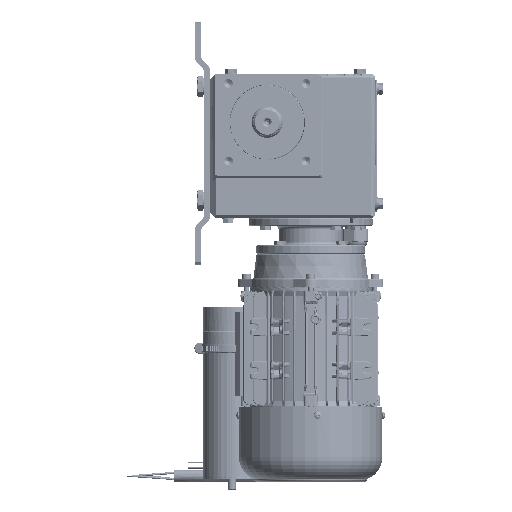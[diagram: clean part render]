
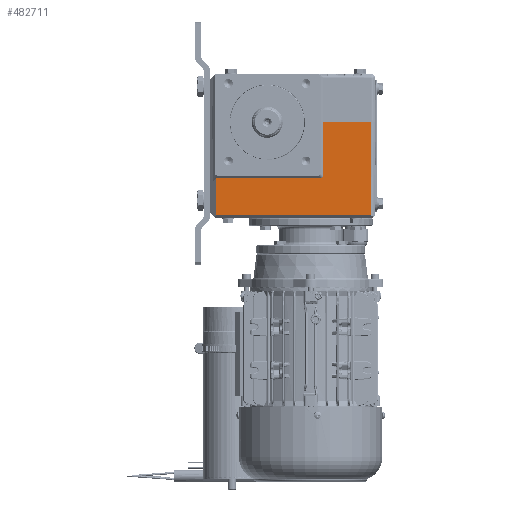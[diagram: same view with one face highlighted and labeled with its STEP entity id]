
A CAD part, left-side view. The second image highlights one B-rep face of the part: STEP entity #482711.
In plain terms, the highlighted planar face has unit normal (-1, 0, -0.009).
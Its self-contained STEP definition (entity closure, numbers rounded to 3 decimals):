
#1961 = ORIENTED_EDGE ( 'NONE', *, *, #635665, .T. ) ;
#30828 = CARTESIAN_POINT ( 'NONE',  ( -92.215, 49.215, -90. ) ) ;
#30839 = CARTESIAN_POINT ( 'NONE',  ( -93., -53.5, 0. ) ) ;
#35384 = CARTESIAN_POINT ( 'NONE',  ( -92.529, 53., -53.971 ) ) ;
#37291 = VERTEX_POINT ( 'NONE', #508035 ) ;
#78044 = CARTESIAN_POINT ( 'NONE',  ( -92.529, -51.85, -53.971 ) ) ;
#91557 = VERTEX_POINT ( 'NONE', #546981 ) ;
#99574 = FACE_OUTER_BOUND ( 'NONE', #198282, .T. ) ;
#104607 = VECTOR ( 'NONE', #670966, 1000. ) ;
#109359 = VERTEX_POINT ( 'NONE', #472516 ) ;
#121888 = EDGE_CURVE ( 'NONE', #661595, #555943, #187499, .T. ) ;
#129110 = CARTESIAN_POINT ( 'NONE',  ( -92.529, -53.195, -53.971 ) ) ;
#136607 = VECTOR ( 'NONE', #359709, 1000. ) ;
#150507 = CARTESIAN_POINT ( 'NONE',  ( -93., 53., 0. ) ) ;
#150539 = LINE ( 'NONE', #616584, #418985 ) ;
#162642 = ORIENTED_EDGE ( 'NONE', *, *, #413973, .T. ) ;
#168627 = VERTEX_POINT ( 'NONE', #30839 ) ;
#187499 = LINE ( 'NONE', #657009, #574520 ) ;
#188536 = DIRECTION ( 'NONE',  ( 0., -1., 0. ) ) ;
#198282 = EDGE_LOOP ( 'NONE', ( #325053, #1961, #385114, #342602, #363413, #329300, #162642, #440060 ) ) ;
#201699 = VECTOR ( 'NONE', #438623, 1000. ) ;
#218291 = EDGE_CURVE ( 'NONE', #168627, #91557, #150539, .T. ) ;
#226305 = VECTOR ( 'NONE', #188536, 1000. ) ;
#241927 = DIRECTION ( 'NONE',  ( -0.009, 0.009, 1. ) ) ;
#258803 =( BOUNDED_CURVE ( )  B_SPLINE_CURVE ( 3, ( #425271, #387629, #129110, #78044 ),
 .UNSPECIFIED., .F., .F. ) 
 B_SPLINE_CURVE_WITH_KNOTS ( ( 4, 4 ),
 ( 2.61, 3.658 ),
 .UNSPECIFIED. ) 
 CURVE ( )  GEOMETRIC_REPRESENTATION_ITEM ( )  RATIONAL_B_SPLINE_CURVE ( ( 1., 0.911, 0.911, 1. ) ) 
 REPRESENTATION_ITEM ( '' )  );
#282199 = CARTESIAN_POINT ( 'NONE',  ( -93., -100.757, 0.011 ) ) ;
#308654 = LINE ( 'NONE', #659283, #136607 ) ;
#325053 = ORIENTED_EDGE ( 'NONE', *, *, #121888, .T. ) ;
#326893 = EDGE_CURVE ( 'NONE', #669618, #109359, #598477, .T. ) ;
#329300 = ORIENTED_EDGE ( 'NONE', *, *, #597208, .F. ) ;
#342300 = CARTESIAN_POINT ( 'NONE',  ( -92.529, 49.529, -53.971 ) ) ;
#342602 = ORIENTED_EDGE ( 'NONE', *, *, #519141, .F. ) ;
#344613 = VERTEX_POINT ( 'NONE', #353981 ) ;
#347417 = LINE ( 'NONE', #408527, #612352 ) ;
#348022 = PLANE ( 'NONE',  #668544 ) ;
#353981 = CARTESIAN_POINT ( 'NONE',  ( -92.548, -53.952, -51.831 ) ) ;
#359709 = DIRECTION ( 'NONE',  ( 0., -1., 0. ) ) ;
#361678 = CARTESIAN_POINT ( 'NONE',  ( -92.215, -99.972, -90. ) ) ;
#363413 = ORIENTED_EDGE ( 'NONE', *, *, #218291, .F. ) ;
#385114 = ORIENTED_EDGE ( 'NONE', *, *, #326893, .T. ) ;
#387629 = CARTESIAN_POINT ( 'NONE',  ( -92.536, -53.964, -53.188 ) ) ;
#408527 = CARTESIAN_POINT ( 'NONE',  ( -93.008, -53.492, 0.929 ) ) ;
#413973 = EDGE_CURVE ( 'NONE', #344613, #37291, #258803, .T. ) ;
#418985 = VECTOR ( 'NONE', #514517, 1000. ) ;
#425271 = CARTESIAN_POINT ( 'NONE',  ( -92.548, -53.952, -51.831 ) ) ;
#438623 = DIRECTION ( 'NONE',  ( -0.009, -0.009, 1. ) ) ;
#440060 = ORIENTED_EDGE ( 'NONE', *, *, #670517, .F. ) ;
#452776 = DIRECTION ( 'NONE',  ( 0.009, -0.009, -1. ) ) ;
#460017 = LINE ( 'NONE', #150507, #104607 ) ;
#472516 = CARTESIAN_POINT ( 'NONE',  ( -93., -100.757, 0. ) ) ;
#482711 = ADVANCED_FACE ( 'NONE', ( #99574 ), #348022, .T. ) ;
#508035 = CARTESIAN_POINT ( 'NONE',  ( -92.529, -51.85, -53.971 ) ) ;
#511253 = CARTESIAN_POINT ( 'NONE',  ( -93., 53., 0. ) ) ;
#514517 = DIRECTION ( 'NONE',  ( 0., -1., 0. ) ) ;
#519141 = EDGE_CURVE ( 'NONE', #91557, #109359, #460017, .T. ) ;
#546981 = CARTESIAN_POINT ( 'NONE',  ( -93., -100.756, 0. ) ) ;
#555493 = DIRECTION ( 'NONE',  ( -1., 0., -0.009 ) ) ;
#555943 = VERTEX_POINT ( 'NONE', #30828 ) ;
#574520 = VECTOR ( 'NONE', #452776, 1000. ) ;
#596887 = LINE ( 'NONE', #35384, #226305 ) ;
#597208 = EDGE_CURVE ( 'NONE', #344613, #168627, #347417, .T. ) ;
#598477 = LINE ( 'NONE', #282199, #201699 ) ;
#612352 = VECTOR ( 'NONE', #241927, 1000. ) ;
#616584 = CARTESIAN_POINT ( 'NONE',  ( -93., 53., 0. ) ) ;
#635665 = EDGE_CURVE ( 'NONE', #555943, #669618, #308654, .T. ) ;
#657009 = CARTESIAN_POINT ( 'NONE',  ( -92.585, 49.585, -47.5 ) ) ;
#657652 = DIRECTION ( 'NONE',  ( -0.009, 0., 1. ) ) ;
#659283 = CARTESIAN_POINT ( 'NONE',  ( -92.215, 53., -90. ) ) ;
#661595 = VERTEX_POINT ( 'NONE', #342300 ) ;
#668544 = AXIS2_PLACEMENT_3D ( 'NONE', #511253, #555493, #657652 ) ;
#669618 = VERTEX_POINT ( 'NONE', #361678 ) ;
#670517 = EDGE_CURVE ( 'NONE', #661595, #37291, #596887, .T. ) ;
#670966 = DIRECTION ( 'NONE',  ( 0., -1., 0. ) ) ;
